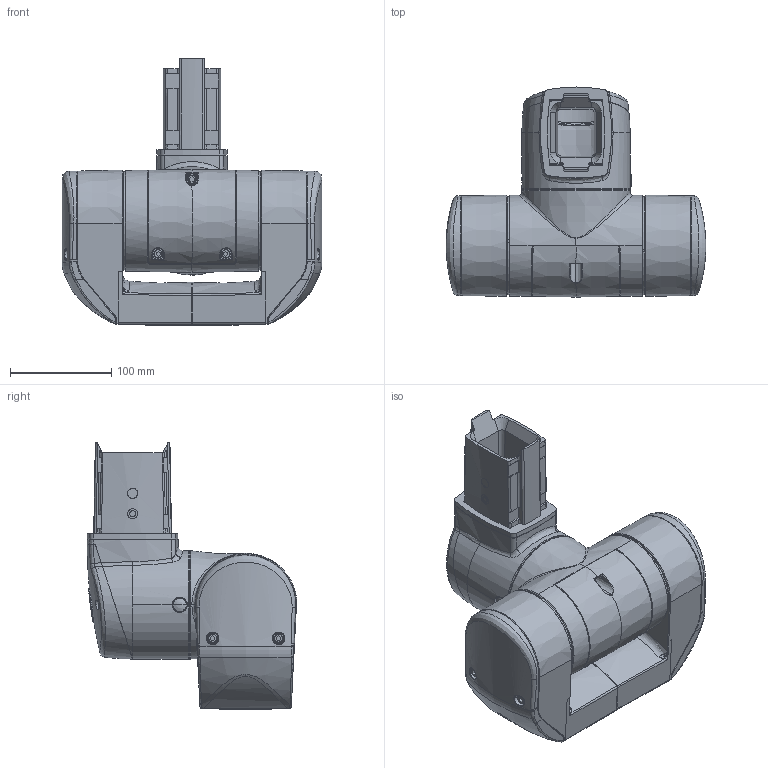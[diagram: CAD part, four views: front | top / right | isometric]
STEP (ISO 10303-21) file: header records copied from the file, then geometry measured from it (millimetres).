
FILE_DESCRIPTION((''),'2;1');
FILE_NAME('1015300262','2018-11-07T10:57:48',('Melanie.Fehring'),(''),'CREO PARAMETRIC BY PTC INC, 2017260','CREO PARAMETRIC BY PTC INC, 2017260','');
FILE_SCHEMA(('AUTOMOTIVE_DESIGN { 1 0 10303 214 1 1 1 1 }'));
Length unit declared in the file: millimetre
Products named in the file (1): 1015300262
Bounding box: 256.4 x 207.18 x 263 mm (x, y, z)
Surface area: 500469.2 mm2 (no closed solid volume)
Topology: 0 solids, 155 shells, 3047 faces, 8777 edges, 5845 vertices
Faces by surface type: plane 852, cylinder 787, bspline 618, cone 500, torus 216, sphere 56, extrusion 18
Entity records: 189989 total; most frequent: CARTESIAN_POINT 65727, ORIENTED_EDGE 15177, DIRECTION 14135, PRESENTATION_STYLE_ASSIGNMENT 11709, STYLED_ITEM 8798, CURVE_STYLE 8738, EDGE_CURVE 8720, VERTEX_POINT 5845
